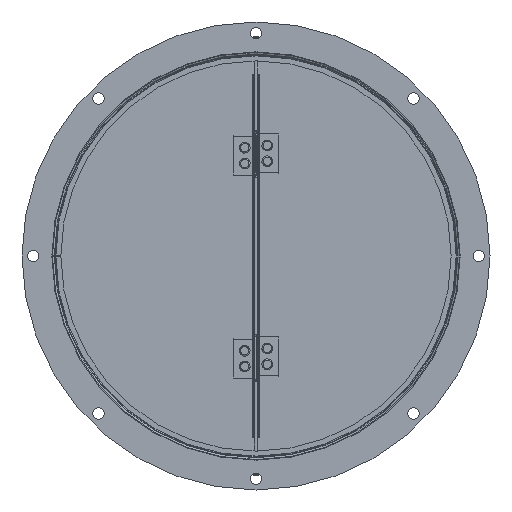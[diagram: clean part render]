
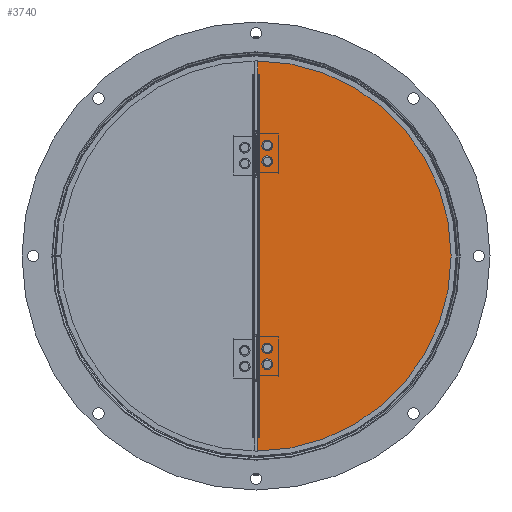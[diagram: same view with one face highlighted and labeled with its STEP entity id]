
A CAD part, left-side view. The second image highlights one B-rep face of the part: STEP entity #3740.
In plain terms, the highlighted planar face has unit normal (-1, 0, 0) as drawn and (0, 0, -1) by its records, which use the part's own axes.
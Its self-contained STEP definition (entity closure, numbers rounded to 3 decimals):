
#312=LINE('',#6290,#529);
#334=LINE('',#6353,#551);
#335=LINE('',#6356,#552);
#338=LINE('',#6363,#555);
#339=LINE('',#6368,#556);
#340=LINE('',#6370,#557);
#341=LINE('',#6373,#558);
#529=VECTOR('',#5035,10.);
#551=VECTOR('',#5103,10.);
#552=VECTOR('',#5106,10.);
#555=VECTOR('',#5115,10.);
#556=VECTOR('',#5120,10.);
#557=VECTOR('',#5121,10.);
#558=VECTOR('',#5124,10.);
#775=PLANE('',#4383);
#979=FACE_BOUND('',#1411,.T.);
#980=FACE_BOUND('',#1412,.T.);
#981=FACE_BOUND('',#1413,.T.);
#982=FACE_BOUND('',#1414,.T.);
#1139=FACE_OUTER_BOUND('',#1410,.T.);
#1410=EDGE_LOOP('',(#2984,#2985,#2986,#2987,#2988,#2989,#2990,#2991,#2992,
#2993,#2994));
#1411=EDGE_LOOP('',(#2995));
#1412=EDGE_LOOP('',(#2996));
#1413=EDGE_LOOP('',(#2997));
#1414=EDGE_LOOP('',(#2998));
#1709=CIRCLE('',#4345,1.5);
#1718=CIRCLE('',#4362,2.6);
#1719=CIRCLE('',#4364,2.6);
#1720=CIRCLE('',#4366,2.6);
#1721=CIRCLE('',#4368,2.6);
#1726=CIRCLE('',#4381,0.05);
#1727=CIRCLE('',#4384,176.);
#1728=CIRCLE('',#4385,0.05);
#1940=VERTEX_POINT('',#6252);
#1942=VERTEX_POINT('',#6255);
#1957=VERTEX_POINT('',#6289);
#1970=VERTEX_POINT('',#6326);
#1971=VERTEX_POINT('',#6329);
#1972=VERTEX_POINT('',#6332);
#1973=VERTEX_POINT('',#6335);
#1974=VERTEX_POINT('',#6342);
#1975=VERTEX_POINT('',#6346);
#1976=VERTEX_POINT('',#6355);
#1977=VERTEX_POINT('',#6359);
#1978=VERTEX_POINT('',#6365);
#1979=VERTEX_POINT('',#6367);
#1980=VERTEX_POINT('',#6369);
#1981=VERTEX_POINT('',#6371);
#2305=EDGE_CURVE('',#1942,#1940,#1709,.T.);
#2322=EDGE_CURVE('',#1942,#1957,#312,.T.);
#2340=EDGE_CURVE('',#1970,#1970,#1718,.T.);
#2341=EDGE_CURVE('',#1971,#1971,#1719,.T.);
#2342=EDGE_CURVE('',#1972,#1972,#1720,.T.);
#2343=EDGE_CURVE('',#1973,#1973,#1721,.T.);
#2352=EDGE_CURVE('',#1974,#1975,#334,.T.);
#2353=EDGE_CURVE('',#1976,#1957,#335,.T.);
#2355=EDGE_CURVE('',#1977,#1976,#1726,.T.);
#2357=EDGE_CURVE('',#1975,#1977,#338,.T.);
#2358=EDGE_CURVE('',#1978,#1940,#1727,.T.);
#2359=EDGE_CURVE('',#1979,#1978,#339,.T.);
#2360=EDGE_CURVE('',#1979,#1980,#340,.T.);
#2361=EDGE_CURVE('',#1980,#1981,#1728,.T.);
#2362=EDGE_CURVE('',#1981,#1974,#341,.T.);
#2984=ORIENTED_EDGE('',*,*,#2305,.T.);
#2985=ORIENTED_EDGE('',*,*,#2358,.F.);
#2986=ORIENTED_EDGE('',*,*,#2359,.F.);
#2987=ORIENTED_EDGE('',*,*,#2360,.T.);
#2988=ORIENTED_EDGE('',*,*,#2361,.T.);
#2989=ORIENTED_EDGE('',*,*,#2362,.T.);
#2990=ORIENTED_EDGE('',*,*,#2352,.T.);
#2991=ORIENTED_EDGE('',*,*,#2357,.T.);
#2992=ORIENTED_EDGE('',*,*,#2355,.T.);
#2993=ORIENTED_EDGE('',*,*,#2353,.T.);
#2994=ORIENTED_EDGE('',*,*,#2322,.F.);
#2995=ORIENTED_EDGE('',*,*,#2340,.T.);
#2996=ORIENTED_EDGE('',*,*,#2341,.T.);
#2997=ORIENTED_EDGE('',*,*,#2342,.T.);
#2998=ORIENTED_EDGE('',*,*,#2343,.T.);
#3740=ADVANCED_FACE('',(#1139,#979,#980,#981,#982),#775,.F.);
#4345=AXIS2_PLACEMENT_3D('',#6256,#5005,#5006);
#4362=AXIS2_PLACEMENT_3D('',#6327,#5065,#5066);
#4364=AXIS2_PLACEMENT_3D('',#6330,#5069,#5070);
#4366=AXIS2_PLACEMENT_3D('',#6333,#5073,#5074);
#4368=AXIS2_PLACEMENT_3D('',#6336,#5077,#5078);
#4381=AXIS2_PLACEMENT_3D('',#6360,#5110,#5111);
#4383=AXIS2_PLACEMENT_3D('',#6364,#5116,#5117);
#4384=AXIS2_PLACEMENT_3D('',#6366,#5118,#5119);
#4385=AXIS2_PLACEMENT_3D('',#6372,#5122,#5123);
#5005=DIRECTION('center_axis',(0.,0.,1.));
#5006=DIRECTION('ref_axis',(1.,0.,0.));
#5035=DIRECTION('',(0.,-1.,0.));
#5065=DIRECTION('center_axis',(0.,0.,1.));
#5066=DIRECTION('ref_axis',(1.,0.,0.));
#5069=DIRECTION('center_axis',(0.,0.,1.));
#5070=DIRECTION('ref_axis',(1.,0.,0.));
#5073=DIRECTION('center_axis',(0.,0.,1.));
#5074=DIRECTION('ref_axis',(1.,0.,0.));
#5077=DIRECTION('center_axis',(0.,0.,1.));
#5078=DIRECTION('ref_axis',(1.,0.,0.));
#5103=DIRECTION('',(0.,1.,0.));
#5106=DIRECTION('',(-1.,0.,0.));
#5110=DIRECTION('center_axis',(0.,0.,1.));
#5111=DIRECTION('ref_axis',(0.,-1.,0.));
#5115=DIRECTION('',(1.,0.,0.));
#5116=DIRECTION('center_axis',(0.,0.,1.));
#5117=DIRECTION('ref_axis',(1.,0.,0.));
#5118=DIRECTION('center_axis',(0.,0.,1.));
#5119=DIRECTION('ref_axis',(0.003,-1.,0.));
#5120=DIRECTION('',(0.,-1.,0.));
#5121=DIRECTION('',(1.,0.,0.));
#5122=DIRECTION('center_axis',(0.,0.,1.));
#5123=DIRECTION('ref_axis',(0.,1.,0.));
#5124=DIRECTION('',(-1.,0.,0.));
#6252=CARTESIAN_POINT('',(2.,175.989,0.));
#6255=CARTESIAN_POINT('',(0.5,174.499,0.));
#6256=CARTESIAN_POINT('Origin',(0.5,175.999,0.));
#6289=CARTESIAN_POINT('',(0.5,161.099,0.));
#6290=CARTESIAN_POINT('',(0.5,175.999,0.));
#6326=CARTESIAN_POINT('',(6.4,82.,0.));
#6327=CARTESIAN_POINT('Origin',(9.,82.,0.));
#6329=CARTESIAN_POINT('',(6.4,96.,0.));
#6330=CARTESIAN_POINT('Origin',(9.,96.,0.));
#6332=CARTESIAN_POINT('',(6.4,-98.,0.));
#6333=CARTESIAN_POINT('Origin',(9.,-98.,0.));
#6335=CARTESIAN_POINT('',(6.4,-84.,0.));
#6336=CARTESIAN_POINT('Origin',(9.,-84.,0.));
#6342=CARTESIAN_POINT('',(2.,-160.999,0.));
#6346=CARTESIAN_POINT('',(2.,160.999,0.));
#6353=CARTESIAN_POINT('',(2.,80.5,0.));
#6355=CARTESIAN_POINT('',(2.05,161.099,0.));
#6356=CARTESIAN_POINT('',(31.259,161.099,0.));
#6359=CARTESIAN_POINT('',(2.05,160.999,0.));
#6360=CARTESIAN_POINT('Origin',(2.05,161.049,0.));
#6363=CARTESIAN_POINT('',(32.034,160.999,0.));
#6364=CARTESIAN_POINT('Origin',(62.017,0.,0.));
#6365=CARTESIAN_POINT('',(0.5,-175.999,0.));
#6366=CARTESIAN_POINT('Origin',(0.,0.,0.));
#6367=CARTESIAN_POINT('',(0.5,-161.099,0.));
#6368=CARTESIAN_POINT('',(0.5,175.999,0.));
#6369=CARTESIAN_POINT('',(2.05,-161.099,0.));
#6370=CARTESIAN_POINT('',(32.034,-161.099,0.));
#6371=CARTESIAN_POINT('',(2.05,-160.999,0.));
#6372=CARTESIAN_POINT('Origin',(2.05,-161.049,0.));
#6373=CARTESIAN_POINT('',(31.259,-160.999,0.));
